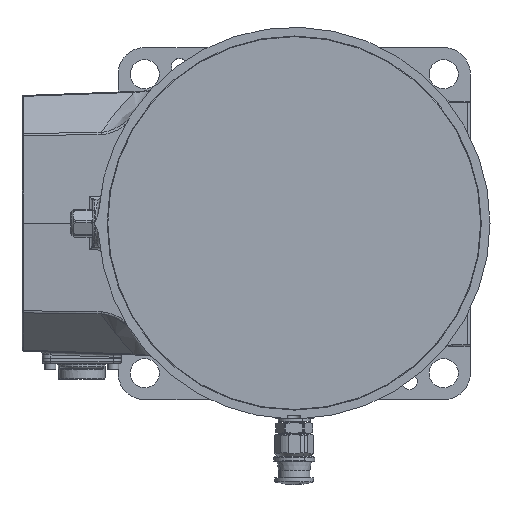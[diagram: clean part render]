
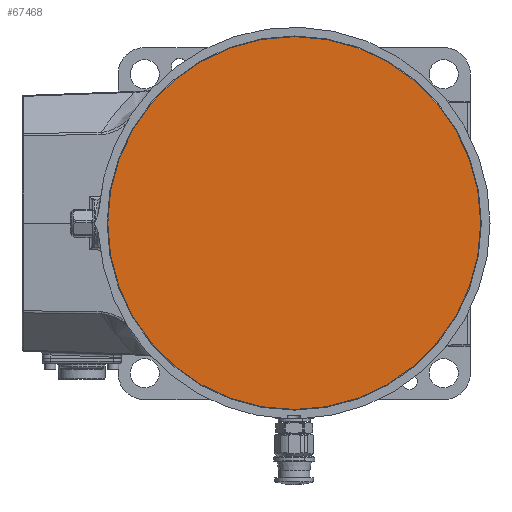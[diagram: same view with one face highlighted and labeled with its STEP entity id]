
A CAD part, top view. The second image highlights one B-rep face of the part: STEP entity #67468.
In plain terms, the highlighted planar face has unit normal (0, 0, 1).
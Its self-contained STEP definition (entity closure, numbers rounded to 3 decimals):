
#2691 = EDGE_LOOP ( 'NONE', ( #93257, #26129 ) ) ;
#7453 = PLANE ( 'NONE',  #63966 ) ;
#11428 = AXIS2_PLACEMENT_3D ( 'NONE', #90892, #50107, #23274 ) ;
#11896 = VERTEX_POINT ( 'NONE', #53805 ) ;
#13097 = DIRECTION ( 'NONE',  ( -1., 0., 0. ) ) ;
#14513 = DIRECTION ( 'NONE',  ( 0., 0., -1. ) ) ;
#20154 = DIRECTION ( 'NONE',  ( 0., 0., 1. ) ) ;
#23274 = DIRECTION ( 'NONE',  ( -1., 0., 0. ) ) ;
#26129 = ORIENTED_EDGE ( 'NONE', *, *, #29073, .T. ) ;
#28652 = CARTESIAN_POINT ( 'NONE',  ( -120.438, -124.693, 254. ) ) ;
#28851 = VERTEX_POINT ( 'NONE', #34290 ) ;
#29073 = EDGE_CURVE ( 'NONE', #11896, #28851, #76600, .T. ) ;
#30128 = FACE_OUTER_BOUND ( 'NONE', #2691, .T. ) ;
#34290 = CARTESIAN_POINT ( 'NONE',  ( -118.5, 0., 254. ) ) ;
#46862 = CIRCLE ( 'NONE', #11428, 118.5 ) ;
#50107 = DIRECTION ( 'NONE',  ( 0., 0., 1. ) ) ;
#51936 = CARTESIAN_POINT ( 'NONE',  ( 0., 0., 254. ) ) ;
#53805 = CARTESIAN_POINT ( 'NONE',  ( 118.5, 0., 254. ) ) ;
#60415 = EDGE_CURVE ( 'NONE', #28851, #11896, #46862, .T. ) ;
#60435 = DIRECTION ( 'NONE',  ( -1., 0., 0. ) ) ;
#63966 = AXIS2_PLACEMENT_3D ( 'NONE', #28652, #14513, #60435 ) ;
#67468 = ADVANCED_FACE ( 'NONE', ( #30128 ), #7453, .F. ) ;
#76600 = CIRCLE ( 'NONE', #86301, 118.5 ) ;
#86301 = AXIS2_PLACEMENT_3D ( 'NONE', #51936, #20154, #13097 ) ;
#90892 = CARTESIAN_POINT ( 'NONE',  ( 0., 0., 254. ) ) ;
#93257 = ORIENTED_EDGE ( 'NONE', *, *, #60415, .T. ) ;
